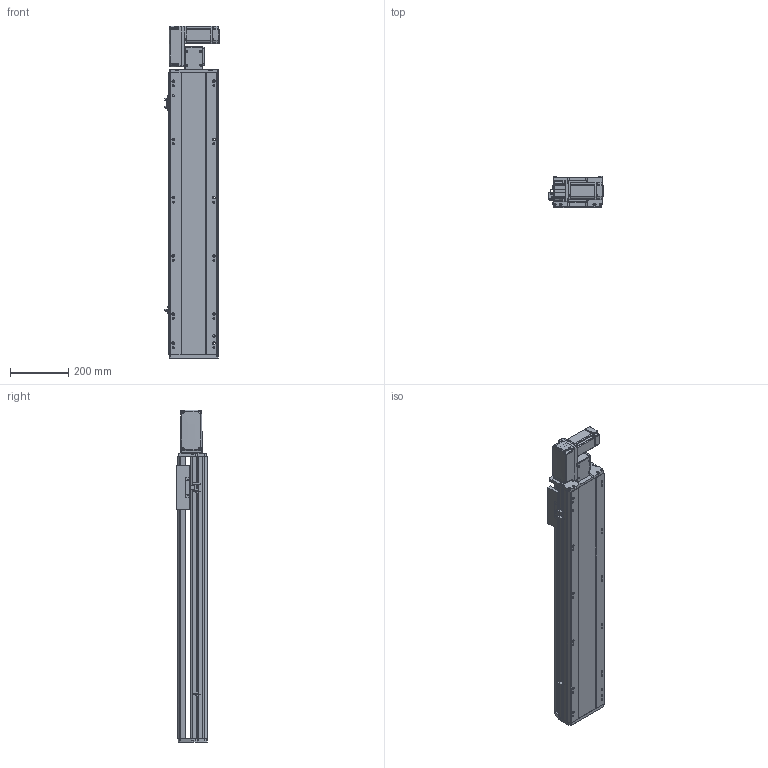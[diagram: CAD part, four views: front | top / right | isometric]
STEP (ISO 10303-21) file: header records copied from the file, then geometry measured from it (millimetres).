
FILE_DESCRIPTION (( 'STEP AP214' ), '1' );
FILE_NAME ('RTB17S-XX-700-L-M40-C4.STEP', '2025-12-11T03:56:21', ( '' ), ( '' ), 'SwSTEP 2.0', 'SolidWorks 2018', '' );
FILE_SCHEMA (( 'AUTOMOTIVE_DESIGN' ));
Length unit declared in the file: millimetre
Products named in the file (14): RTB17S-L-001侧面板^RTB17S-XX-XX-L-M40-C4（方程式）; RTB17S-XX-700-L-M40-C4; RMP17S-L-014-T20--皮带座^RTB17S-L-皮带座装配-400W_RTB17S-XX-XX-L-M40-C4（方程式）; RTB17S-L-004丝杆螺母连接座^RTB17S-XX-XX-L-M40-C4（方程式）; 400W伺服电机^RTB17S-XX-XX-L-M40-C4（方程式）; RTB14-L-005P--轴承塑胶压盖^RTB17S-L-皮带座装配-400W_RTB17S-XX-XX-L-M40-C4（方程式）; RTB17S-L-皮带座装配-400W^RTB17S-XX-XX-L-M40-C4（方程式）; RTB17S-L-007上盖^RTB17S-XX-XX-L-M40-C4（方程式）; RTB17-R-011底座^RTB17S-XX-XX-L-M40-C4（方程式）; RTB14-L-018P^RTB17S-L-皮带座装配-400W_RTB17S-XX-XX-L-M40-C4（方程式）; RTB14-L-017P^RTB17S-L-皮带座装配-400W_RTB17S-XX-XX-L-M40-C4（方程式）; RTB14-L-008-M20--电机板^RTB17S-L-皮带座装配-400W_RTB17S-XX-XX-L-M40-C4（方程式）; RTH13-BL-012感应片外置^RTB17S-XX-XX-L-M40-C4（方程式）; OMRON EE-SX672 传感器^RTB17S-XX-XX-L-M40-C4（方程式）
Assembly tree (16 placements, depth 3):
  RTB17S-XX-700-L-M40-C4
    RTB17-R-011底座^RTB17S-XX-XX-L-M40-C4（方程式）
    RTB17S-L-007上盖^RTB17S-XX-XX-L-M40-C4（方程式）
    OMRON EE-SX672 传感器^RTB17S-XX-XX-L-M40-C4（方程式）  x3
    RTB17S-L-001侧面板^RTB17S-XX-XX-L-M40-C4（方程式）
    400W伺服电机^RTB17S-XX-XX-L-M40-C4（方程式）
    RTB17S-L-004丝杆螺母连接座^RTB17S-XX-XX-L-M40-C4（方程式）
    RTH13-BL-012感应片外置^RTB17S-XX-XX-L-M40-C4（方程式）
    RTB17S-L-皮带座装配-400W^RTB17S-XX-XX-L-M40-C4（方程式）
      RMP17S-L-014-T20--皮带座^RTB17S-L-皮带座装配-400W_RTB17S-XX-XX-L-M40-C4（方程式）
      RTB14-L-005P--轴承塑胶压盖^RTB17S-L-皮带座装配-400W_RTB17S-XX-XX-L-M40-C4（方程式）
      RTB14-L-008-M20--电机板^RTB17S-L-皮带座装配-400W_RTB17S-XX-XX-L-M40-C4（方程式）
      RTB14-L-017P^RTB17S-L-皮带座装配-400W_RTB17S-XX-XX-L-M40-C4（方程式）  x2
      RTB14-L-018P^RTB17S-L-皮带座装配-400W_RTB17S-XX-XX-L-M40-C4（方程式）
Bounding box: 186 x 108 x 1141 mm (x, y, z)
Volume: 9925274.2 mm3; surface area: 1232176.7 mm2
Topology: 15 solids, 15 shells, 2189 faces, 6033 edges, 3933 vertices
Faces by surface type: plane 1066, cylinder 675, bspline 301, cone 139, torus 8
Entity records: 61865 total; most frequent: CARTESIAN_POINT 17238, ORIENTED_EDGE 8910, DIRECTION 8306, EDGE_CURVE 4455, VERTEX_POINT 2921, AXIS2_PLACEMENT_3D 2851, VECTOR 2604, LINE 2604
